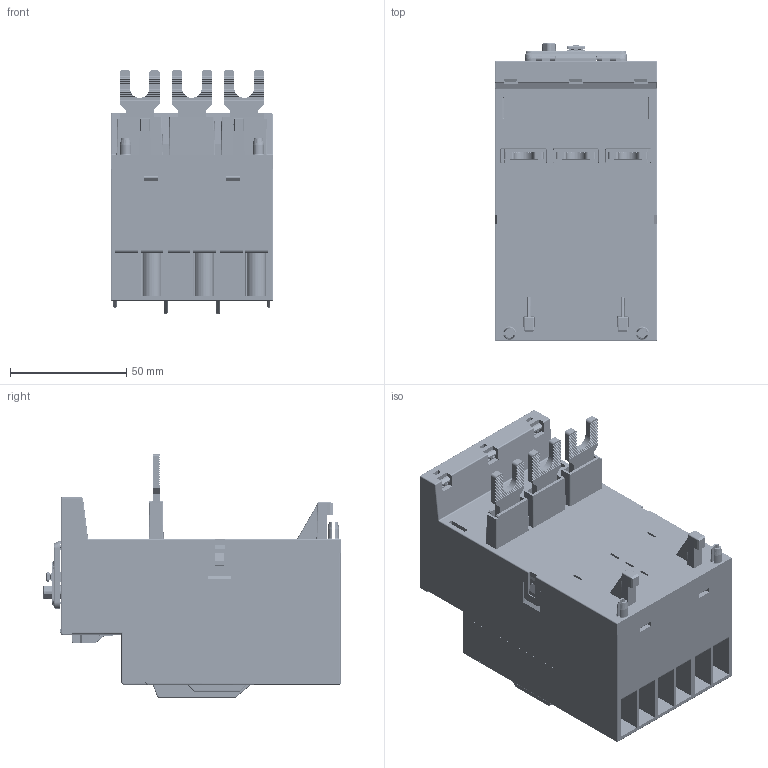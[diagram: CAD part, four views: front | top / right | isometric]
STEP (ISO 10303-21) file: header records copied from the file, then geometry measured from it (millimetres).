
FILE_DESCRIPTION(/* description */ (''),/* implementation_level */ '2;1');
FILE_NAME(/* name */ 'HGT100AF.stp',/* time_stamp */ '2017-12-06T11:44:52+09:00',/* author */ (''),/* organization */ (''),/* preprocessor_version */ 'ST-DEVELOPER v15',/* originating_system */ 'SIEMENS PLM Software NX 9.0',/* authorisation */ '');
FILE_SCHEMA (('CONFIG_CONTROL_DESIGN'));
Products named in the file (1): HGT100AF
Bounding box: 70.1 x 128.05 x 104.95 mm (x, y, z)
Volume: 416855.9 mm3; surface area: 216353.9 mm2
Topology: 49 solids, 87 shells, 9417 faces, 26026 edges, 16941 vertices
Faces by surface type: plane 7145, cylinder 1579, bspline 225, extrusion 142, cone 121, torus 114, sphere 91
Full cylindrical faces by diameter (mm): 1.8 x6, 2.1 x1, 3 x6, 3.6 x2, 3.7 x3, 4 x1, 5.7 x1, 6.2 x1, 6.5 x1, 6.7 x5, 6.8 x1, 7 x1, 8 x1, 8.4 x1, 8.5 x3, 12 x1, 15.4 x3
Entity records: 318269 total; most frequent: CARTESIAN_POINT 79386, ORIENTED_EDGE 51782, DIRECTION 46358, EDGE_CURVE 25891, VECTOR 20172, LINE 20030, VERTEX_POINT 16908, AXIS2_PLACEMENT_3D 13093
